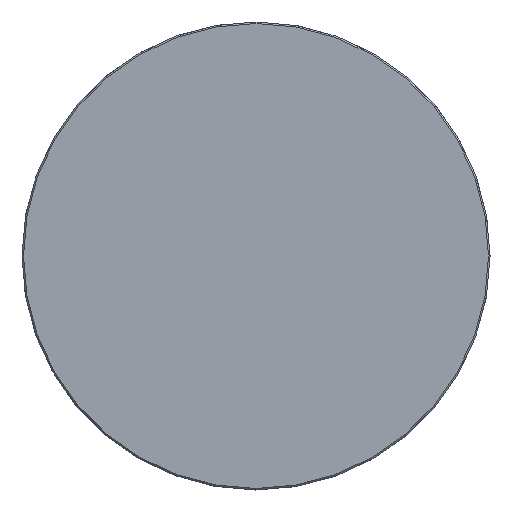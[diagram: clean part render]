
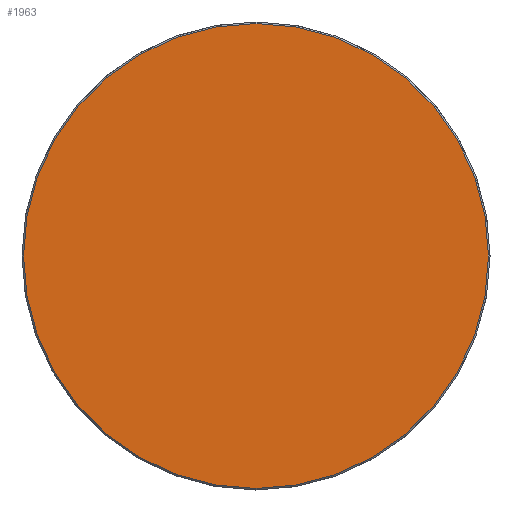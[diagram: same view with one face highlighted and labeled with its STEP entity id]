
A CAD part, left-side view. The second image highlights one B-rep face of the part: STEP entity #1963.
In plain terms, the highlighted planar face has unit normal (-1, 0, 0).
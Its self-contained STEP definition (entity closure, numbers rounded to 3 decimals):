
#120 = EDGE_CURVE ( 'NONE', #1468, #1674, #1564, .T. ) ;
#157 = EDGE_CURVE ( 'NONE', #1674, #1468, #1610, .T. ) ;
#1044 = FACE_OUTER_BOUND ( 'NONE', #3021, .T. ) ;
#1468 = VERTEX_POINT ( 'NONE', #3585 ) ;
#1564 = CIRCLE ( 'NONE', #1856, 30.8 ) ;
#1610 = CIRCLE ( 'NONE', #1863, 30.8 ) ;
#1674 = VERTEX_POINT ( 'NONE', #4045 ) ;
#1856 = AXIS2_PLACEMENT_3D ( 'NONE', #2190, #2189, #2188 ) ;
#1863 = AXIS2_PLACEMENT_3D ( 'NONE', #2132, #2105, #2104 ) ;
#1963 = ADVANCED_FACE ( 'NONE', ( #1044 ), #3903, .F. ) ;
#2104 = DIRECTION ( 'NONE',  ( 0., 0., -1. ) ) ;
#2105 = DIRECTION ( 'NONE',  ( -1., 0., 0. ) ) ;
#2132 = CARTESIAN_POINT ( 'NONE',  ( -81.307, -3.842, -3.003 ) ) ;
#2188 = DIRECTION ( 'NONE',  ( 0., 0., -1. ) ) ;
#2189 = DIRECTION ( 'NONE',  ( -1., 0., 0. ) ) ;
#2190 = CARTESIAN_POINT ( 'NONE',  ( -81.307, -3.842, -3.003 ) ) ;
#3021 = EDGE_LOOP ( 'NONE', ( #3326, #3392 ) ) ;
#3326 = ORIENTED_EDGE ( 'NONE', *, *, #157, .T. ) ;
#3392 = ORIENTED_EDGE ( 'NONE', *, *, #120, .T. ) ;
#3585 = CARTESIAN_POINT ( 'NONE',  ( -81.307, -3.842, 27.797 ) ) ;
#3640 = DIRECTION ( 'NONE',  ( 1., 0., 0. ) ) ;
#3818 = DIRECTION ( 'NONE',  ( 0., 0., -1. ) ) ;
#3855 = CARTESIAN_POINT ( 'NONE',  ( -81.307, 27.158, -3.003 ) ) ;
#3903 = PLANE ( 'NONE',  #4234 ) ;
#4045 = CARTESIAN_POINT ( 'NONE',  ( -81.307, -3.842, -33.803 ) ) ;
#4234 = AXIS2_PLACEMENT_3D ( 'NONE', #3855, #3640, #3818 ) ;
